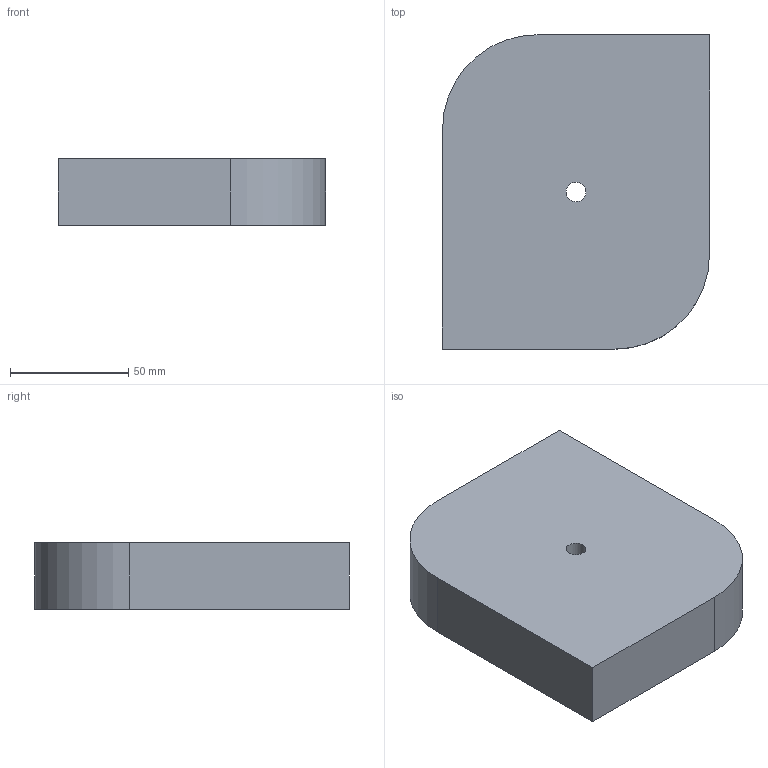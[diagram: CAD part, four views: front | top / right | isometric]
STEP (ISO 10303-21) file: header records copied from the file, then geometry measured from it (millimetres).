
FILE_DESCRIPTION(('CATIA V5 STEP Exchange'),'2;1');
FILE_NAME('C:\_Andres\UNIVERSIDAD\IQS\ASIGNATURAS\DAO\EXF\EXF-15161c\1original\Sánchez_Albiol_Ej01-plano_v23.stp','2016-03-04T14:59:47+00:00',('none'),('none'),'CATIA Version 5 Release 20 SP 1 (IN-10)','CATIA V5 STEP AP203','none');
FILE_SCHEMA(('CONFIG_CONTROL_DESIGN'));
Length unit declared in the file: millimetre
Products named in the file (1): Sánchez_Albiol_Ej01-plano_v23
Bounding box: 113 x 133 x 28 mm (x, y, z)
Volume: 400040.8 mm3; surface area: 42125.7 mm2
Topology: 1 solids, 1 shells, 10 faces, 24 edges, 16 vertices
Faces by surface type: plane 6, cylinder 4
Entity records: 333 total; most frequent: CARTESIAN_POINT 51, ORIENTED_EDGE 48, DIRECTION 44, EDGE_CURVE 24, AXIS2_PLACEMENT_3D 19, VECTOR 16, LINE 16, VERTEX_POINT 16
